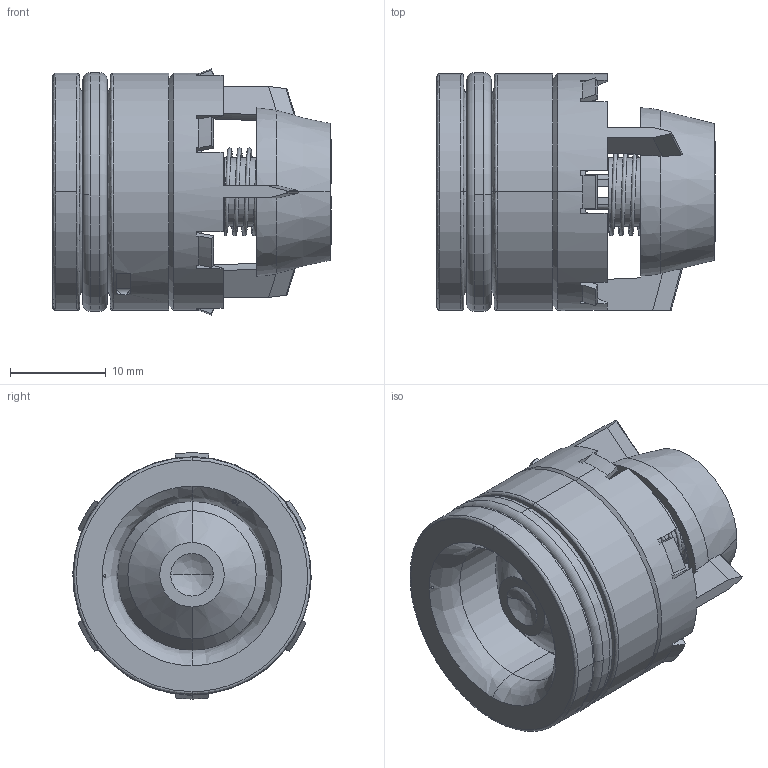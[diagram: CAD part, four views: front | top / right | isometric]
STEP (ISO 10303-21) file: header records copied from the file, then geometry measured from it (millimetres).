
FILE_DESCRIPTION (( 'STEP AP203' ), '1' );
FILE_NAME ('I0025-W149025620.STEP', '2020-04-08T14:34:16', ( '' ), ( '' ), 'SwSTEP 2.0', 'SolidWorks 2017', '' );
FILE_SCHEMA (( 'CONFIG_CONTROL_DESIGN' ));
Length unit declared in the file: metre
Products named in the file (7): PRT_FRVIR_0000008047_D25Spl(monté); Pièce30^ASM_FRVIR_0000002702; FUR_FRVIR_0000000993; I0025-W149025620; PRT_FRVIR_0000008064; PRT_FRVIR_0000008076; PRT_FRVIR_0000008073
Assembly tree (6 placements, depth 2):
  I0025-W149025620
    PRT_FRVIR_0000008064
    FUR_FRVIR_0000000993
    PRT_FRVIR_0000008047_D25Spl(monté)
    PRT_FRVIR_0000008073
    PRT_FRVIR_0000008076
    Pièce30^ASM_FRVIR_0000002702
Bounding box: 29.1 x 24.94 x 25.75 mm (x, y, z)
Volume: 5490.3 mm3; surface area: 8178.9 mm2
Topology: 6 solids, 6 shells, 470 faces, 1254 edges, 792 vertices
Faces by surface type: plane 200, bspline 130, cylinder 76, cone 56, torus 8
Entity records: 24837 total; most frequent: CARTESIAN_POINT 13616, ORIENTED_EDGE 2456, DIRECTION 1768, EDGE_CURVE 1228, VERTEX_POINT 792, AXIS2_PLACEMENT_3D 605, VECTOR 558, LINE 558
